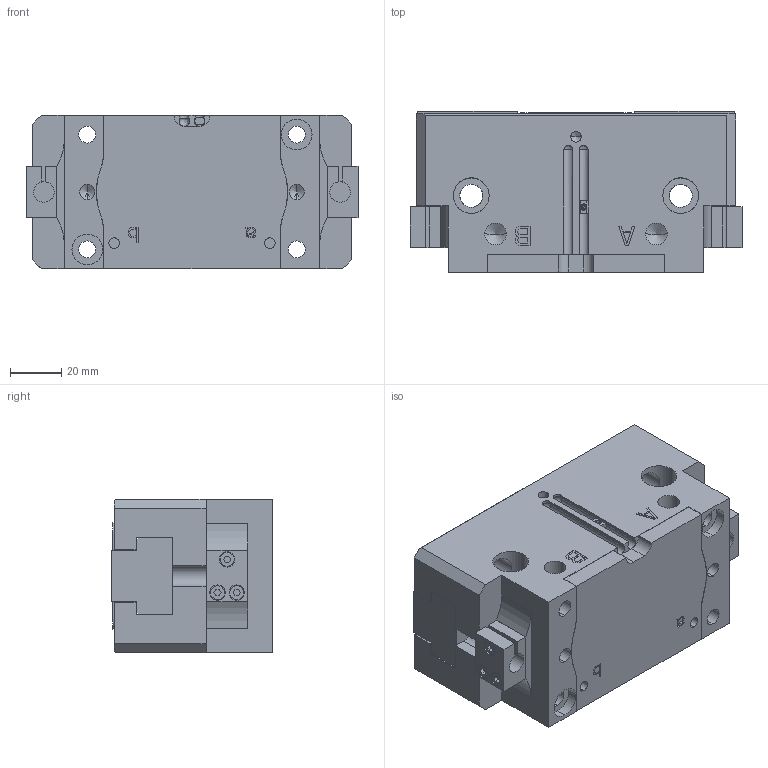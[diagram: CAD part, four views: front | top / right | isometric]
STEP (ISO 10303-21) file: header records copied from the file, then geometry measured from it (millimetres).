
FILE_DESCRIPTION (( 'STEP AP214' ), '1' );
FILE_NAME ('FPT 125A-1.STEP', '2021-09-18T04:27:27', ( 'DEEP' ), ( 'Microsoft' ), 'SwSTEP 2.0', 'SolidWorks 2016', '' );
FILE_SCHEMA (( 'AUTOMOTIVE_DESIGN' ));
Length unit declared in the file: millimetre
Products named in the file (15): FPT 125A-1-004; FPT 125A-1-005; FPT 125A-1-001; FPT 125A-1-006; FPT 125A-1-002; FPT 125A-1-003; FPT 125A-1
Assembly tree (8 placements, depth 2):
  FPT 125A-1-004
  FPT 125A-1-004
  FPT 125A-1-005
  FPT 125A-1-001
  FPT 125A-1-001
Bounding box: 130 x 63 x 60 mm (x, y, z)
Volume: 394090.2 mm3; surface area: 90404.5 mm2
Topology: 8 solids, 8 shells, 629 faces, 1650 edges, 1057 vertices
Faces by surface type: plane 382, cylinder 173, cone 68, bspline 6
Entity records: 17947 total; most frequent: CARTESIAN_POINT 3777, ORIENTED_EDGE 2800, DIRECTION 2790, EDGE_CURVE 1400, VECTOR 1022, LINE 1022, VERTEX_POINT 923, AXIS2_PLACEMENT_3D 884
